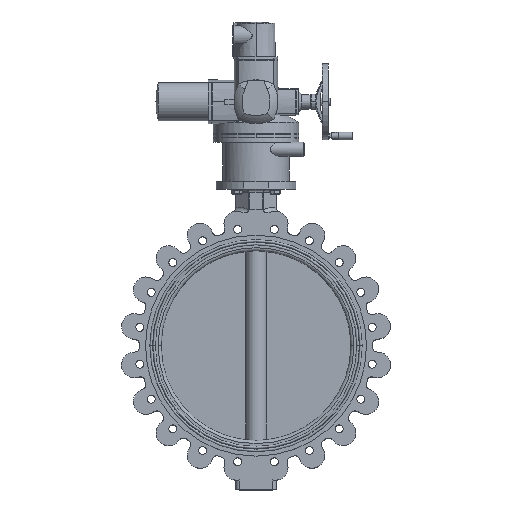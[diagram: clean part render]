
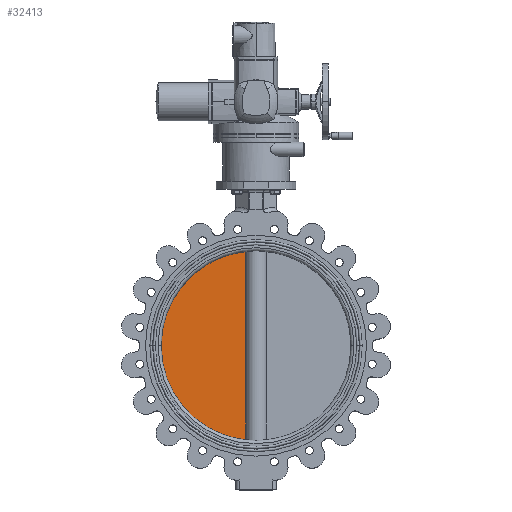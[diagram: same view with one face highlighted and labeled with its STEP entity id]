
A CAD part, top view. The second image highlights one B-rep face of the part: STEP entity #32413.
In plain terms, the highlighted planar face has unit normal (0, 0, 1).
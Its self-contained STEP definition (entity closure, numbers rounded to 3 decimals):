
#1134 = CIRCLE ( 'NONE', #15953, 250. ) ;
#2654 = CARTESIAN_POINT ( 'NONE',  ( -252., 470.501, 8. ) ) ;
#2775 = DIRECTION ( 'NONE',  ( 0., 0., -1. ) ) ;
#7526 = FACE_OUTER_BOUND ( 'NONE', #23854, .T. ) ;
#14627 = LINE ( 'NONE', #33641, #30388 ) ;
#15913 = DIRECTION ( 'NONE',  ( 0., 0., -1. ) ) ;
#15953 = AXIS2_PLACEMENT_3D ( 'NONE', #24987, #21920, #16179 ) ;
#16179 = DIRECTION ( 'NONE',  ( -1., 0., 0. ) ) ;
#16596 = ORIENTED_EDGE ( 'NONE', *, *, #22304, .F. ) ;
#16628 = PLANE ( 'NONE',  #34142 ) ;
#16699 = ORIENTED_EDGE ( 'NONE', *, *, #34709, .F. ) ;
#16904 = CARTESIAN_POINT ( 'NONE',  ( -250., 0., 8. ) ) ;
#17203 = EDGE_CURVE ( 'NONE', #23349, #31616, #34228, .T. ) ;
#19300 = DIRECTION ( 'NONE',  ( -1., 0., 0. ) ) ;
#19998 = ORIENTED_EDGE ( 'NONE', *, *, #17203, .F. ) ;
#20012 = DIRECTION ( 'NONE',  ( 0., -1., 0. ) ) ;
#21130 = VERTEX_POINT ( 'NONE', #31754 ) ;
#21920 = DIRECTION ( 'NONE',  ( 0., 0., -1. ) ) ;
#22304 = EDGE_CURVE ( 'NONE', #31616, #21130, #14627, .T. ) ;
#23349 = VERTEX_POINT ( 'NONE', #16904 ) ;
#23854 = EDGE_LOOP ( 'NONE', ( #16699, #16596, #19998 ) ) ;
#24678 = CARTESIAN_POINT ( 'NONE',  ( -26.833, 248.556, 8. ) ) ;
#24987 = CARTESIAN_POINT ( 'NONE',  ( 0., 0., 8. ) ) ;
#27361 = CARTESIAN_POINT ( 'NONE',  ( 0., 0., 8. ) ) ;
#30388 = VECTOR ( 'NONE', #20012, 1000. ) ;
#31336 = AXIS2_PLACEMENT_3D ( 'NONE', #27361, #2775, #32721 ) ;
#31616 = VERTEX_POINT ( 'NONE', #24678 ) ;
#31754 = CARTESIAN_POINT ( 'NONE',  ( -26.833, -248.556, 8. ) ) ;
#32413 = ADVANCED_FACE ( 'NONE', ( #7526 ), #16628, .F. ) ;
#32721 = DIRECTION ( 'NONE',  ( -1., 0., 0. ) ) ;
#33641 = CARTESIAN_POINT ( 'NONE',  ( -26.833, 470.501, 8. ) ) ;
#34142 = AXIS2_PLACEMENT_3D ( 'NONE', #2654, #15913, #19300 ) ;
#34228 = CIRCLE ( 'NONE', #31336, 250. ) ;
#34709 = EDGE_CURVE ( 'NONE', #21130, #23349, #1134, .T. ) ;
